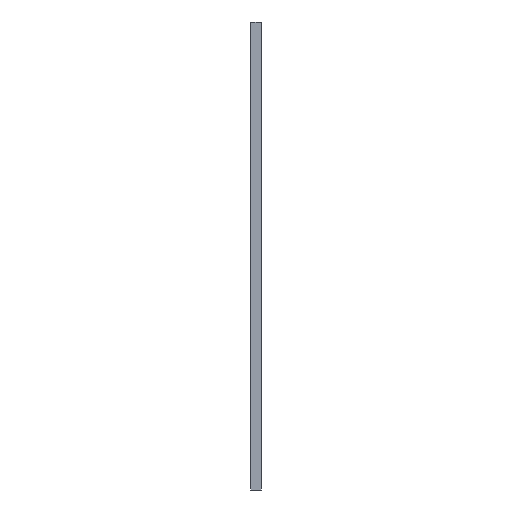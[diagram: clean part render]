
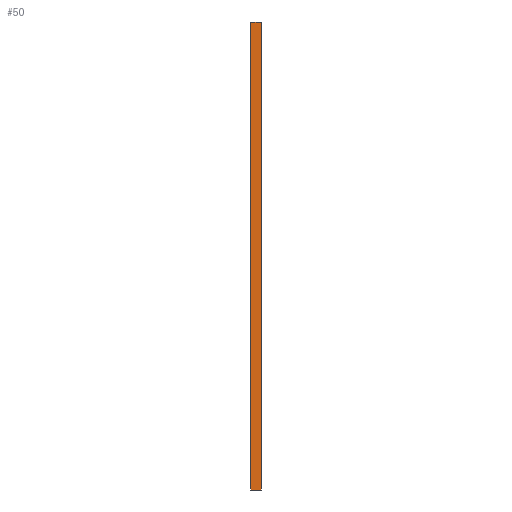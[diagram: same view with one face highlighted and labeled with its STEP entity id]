
A CAD part, front view. The second image highlights one B-rep face of the part: STEP entity #50.
In plain terms, the highlighted planar face has unit normal (0, -1, 0).
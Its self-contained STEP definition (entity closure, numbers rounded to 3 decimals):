
#50=ADVANCED_FACE('',(#88),#1482,.T.);
#88=FACE_OUTER_BOUND('',#126,.T.);
#126=EDGE_LOOP('',(#190,#191,#192,#193));
#190=ORIENTED_EDGE('',*,*,#1090,.T.);
#191=ORIENTED_EDGE('',*,*,#1091,.T.);
#192=ORIENTED_EDGE('',*,*,#1092,.T.);
#193=ORIENTED_EDGE('',*,*,#1093,.T.);
#406=PCURVE('',#1482,#622);
#407=PCURVE('',#1482,#623);
#408=PCURVE('',#1482,#624);
#409=PCURVE('',#1482,#625);
#413=PCURVE('',#1483,#629);
#419=PCURVE('',#1485,#635);
#505=PCURVE('',#1486,#721);
#538=PCURVE('',#1487,#754);
#622=DEFINITIONAL_REPRESENTATION('',(#838),#3053);
#623=DEFINITIONAL_REPRESENTATION('',(#839),#3053);
#624=DEFINITIONAL_REPRESENTATION('',(#840),#3053);
#625=DEFINITIONAL_REPRESENTATION('',(#841),#3053);
#629=DEFINITIONAL_REPRESENTATION('',(#845),#3053);
#635=DEFINITIONAL_REPRESENTATION('',(#851),#3053);
#721=DEFINITIONAL_REPRESENTATION('',(#1285),#3053);
#754=DEFINITIONAL_REPRESENTATION('',(#1330),#3053);
#838=B_SPLINE_CURVE_WITH_KNOTS('',1,(#2086,#2087),.UNSPECIFIED.,.F.,.F.,
(2,2),(139.114,159.114),.UNSPECIFIED.);
#839=B_SPLINE_CURVE_WITH_KNOTS('',1,(#2090,#2091),.UNSPECIFIED.,.F.,.F.,
(2,2),(0.,6.),.UNSPECIFIED.);
#840=B_SPLINE_CURVE_WITH_KNOTS('',1,(#2094,#2095),.UNSPECIFIED.,.F.,.F.,
(2,2),(-159.114,-139.114),.UNSPECIFIED.);
#841=B_SPLINE_CURVE_WITH_KNOTS('',1,(#2098,#2099),.UNSPECIFIED.,.F.,.F.,
(2,2),(-6.,0.),.UNSPECIFIED.);
#845=B_SPLINE_CURVE_WITH_KNOTS('',1,(#2112,#2113),.UNSPECIFIED.,.F.,.F.,
(2,2),(0.,6.),.UNSPECIFIED.);
#851=B_SPLINE_CURVE_WITH_KNOTS('',1,(#2132,#2133),.UNSPECIFIED.,.F.,.F.,
(2,2),(-6.,0.),.UNSPECIFIED.);
#982=SURFACE_CURVE('',#1198,(#406,#505),.PCURVE_S1.);
#983=SURFACE_CURVE('',#1199,(#407,#413),.PCURVE_S1.);
#984=SURFACE_CURVE('',#1200,(#408,#538),.PCURVE_S1.);
#985=SURFACE_CURVE('',#1201,(#409,#419),.PCURVE_S1.);
#1090=EDGE_CURVE('',#1378,#1379,#982,.T.);
#1091=EDGE_CURVE('',#1379,#1380,#983,.T.);
#1092=EDGE_CURVE('',#1380,#1381,#984,.T.);
#1093=EDGE_CURVE('',#1381,#1378,#985,.T.);
#1198=(
BOUNDED_CURVE()
B_SPLINE_CURVE(1,(#2084,#2085),.UNSPECIFIED.,.F.,.F.)
B_SPLINE_CURVE_WITH_KNOTS((2,2),(139.114,159.114),
 .UNSPECIFIED.)
CURVE()
GEOMETRIC_REPRESENTATION_ITEM()
RATIONAL_B_SPLINE_CURVE((1.,1.))
REPRESENTATION_ITEM('')
);
#1199=(
BOUNDED_CURVE()
B_SPLINE_CURVE(1,(#2088,#2089),.UNSPECIFIED.,.F.,.F.)
B_SPLINE_CURVE_WITH_KNOTS((2,2),(0.,6.),.UNSPECIFIED.)
CURVE()
GEOMETRIC_REPRESENTATION_ITEM()
RATIONAL_B_SPLINE_CURVE((1.,1.))
REPRESENTATION_ITEM('')
);
#1200=(
BOUNDED_CURVE()
B_SPLINE_CURVE(1,(#2092,#2093),.UNSPECIFIED.,.F.,.F.)
B_SPLINE_CURVE_WITH_KNOTS((2,2),(-159.114,-139.114),
 .UNSPECIFIED.)
CURVE()
GEOMETRIC_REPRESENTATION_ITEM()
RATIONAL_B_SPLINE_CURVE((1.,1.))
REPRESENTATION_ITEM('')
);
#1201=(
BOUNDED_CURVE()
B_SPLINE_CURVE(1,(#2096,#2097),.UNSPECIFIED.,.F.,.F.)
B_SPLINE_CURVE_WITH_KNOTS((2,2),(-6.,0.),.UNSPECIFIED.)
CURVE()
GEOMETRIC_REPRESENTATION_ITEM()
RATIONAL_B_SPLINE_CURVE((1.,1.))
REPRESENTATION_ITEM('')
);
#1285=(
BOUNDED_CURVE()
B_SPLINE_CURVE(1,(#2538,#2539),.UNSPECIFIED.,.F.,.F.)
B_SPLINE_CURVE_WITH_KNOTS((2,2),(139.114,159.114),
 .UNSPECIFIED.)
CURVE()
GEOMETRIC_REPRESENTATION_ITEM()
RATIONAL_B_SPLINE_CURVE((1.,1.))
REPRESENTATION_ITEM('')
);
#1330=(
BOUNDED_CURVE()
B_SPLINE_CURVE(1,(#2744,#2745),.UNSPECIFIED.,.F.,.F.)
B_SPLINE_CURVE_WITH_KNOTS((2,2),(-159.114,-139.114),
 .UNSPECIFIED.)
CURVE()
GEOMETRIC_REPRESENTATION_ITEM()
RATIONAL_B_SPLINE_CURVE((1.,1.))
REPRESENTATION_ITEM('')
);
#1378=VERTEX_POINT('',#2012);
#1379=VERTEX_POINT('',#2013);
#1380=VERTEX_POINT('',#2014);
#1381=VERTEX_POINT('',#2015);
#1482=PLANE('',#1508);
#1483=PLANE('',#1509);
#1485=PLANE('',#1511);
#1486=PLANE('',#1512);
#1487=PLANE('',#1513);
#1508=AXIS2_PLACEMENT_3D('',#1526,#1517,$);
#1509=AXIS2_PLACEMENT_3D('',#1527,#1518,$);
#1511=AXIS2_PLACEMENT_3D('',#1529,#1520,$);
#1512=AXIS2_PLACEMENT_3D('',#1794,#1521,$);
#1513=AXIS2_PLACEMENT_3D('',#1795,#1522,$);
#1517=DIRECTION('',(0.,-1.,0.));
#1518=DIRECTION('',(0.,0.,-1.));
#1520=DIRECTION('',(0.,0.,1.));
#1521=DIRECTION('',(-1.,0.,0.));
#1522=DIRECTION('',(1.,0.,0.));
#1526=CARTESIAN_POINT('',(820.,350.,-35.));
#1527=CARTESIAN_POINT('',(820.,350.,-165.));
#1529=CARTESIAN_POINT('',(820.,550.,-35.));
#1794=CARTESIAN_POINT('',(820.,350.,-165.));
#1795=CARTESIAN_POINT('',(823.,350.,-165.));
#2012=CARTESIAN_POINT('',(820.,350.,-35.));
#2013=CARTESIAN_POINT('',(820.,350.,-165.));
#2014=CARTESIAN_POINT('',(823.,350.,-165.));
#2015=CARTESIAN_POINT('',(823.,350.,-35.));
#2084=CARTESIAN_POINT('',(820.,350.,-35.));
#2085=CARTESIAN_POINT('',(820.,350.,-165.));
#2086=CARTESIAN_POINT('',(139.114,0.));
#2087=CARTESIAN_POINT('',(159.114,0.));
#2088=CARTESIAN_POINT('',(820.,350.,-165.));
#2089=CARTESIAN_POINT('',(823.,350.,-165.));
#2090=CARTESIAN_POINT('',(159.114,0.));
#2091=CARTESIAN_POINT('',(159.114,6.));
#2092=CARTESIAN_POINT('',(823.,350.,-165.));
#2093=CARTESIAN_POINT('',(823.,350.,-35.));
#2094=CARTESIAN_POINT('',(159.114,6.));
#2095=CARTESIAN_POINT('',(139.114,6.));
#2096=CARTESIAN_POINT('',(823.,350.,-35.));
#2097=CARTESIAN_POINT('',(820.,350.,-35.));
#2098=CARTESIAN_POINT('',(139.114,6.));
#2099=CARTESIAN_POINT('',(139.114,0.));
#2112=CARTESIAN_POINT('',(159.114,0.));
#2113=CARTESIAN_POINT('',(159.114,6.));
#2132=CARTESIAN_POINT('',(757.428,6.));
#2133=CARTESIAN_POINT('',(757.428,0.));
#2538=CARTESIAN_POINT('',(110.,-83.));
#2539=CARTESIAN_POINT('',(-20.,-83.));
#2744=CARTESIAN_POINT('',(-83.,-20.));
#2745=CARTESIAN_POINT('',(-83.,110.));
#3053=(
GEOMETRIC_REPRESENTATION_CONTEXT(2)
PARAMETRIC_REPRESENTATION_CONTEXT()
REPRESENTATION_CONTEXT('pspace','')
);
